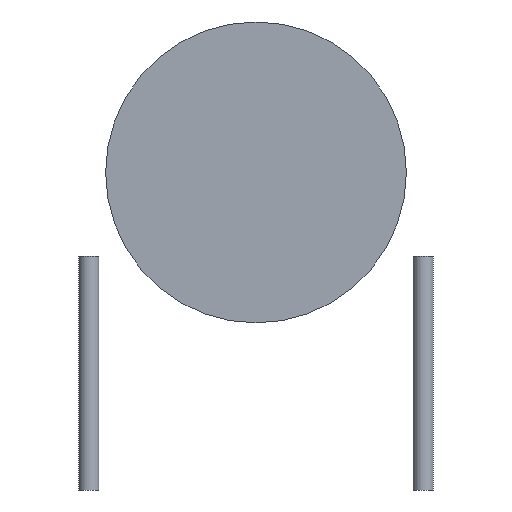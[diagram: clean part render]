
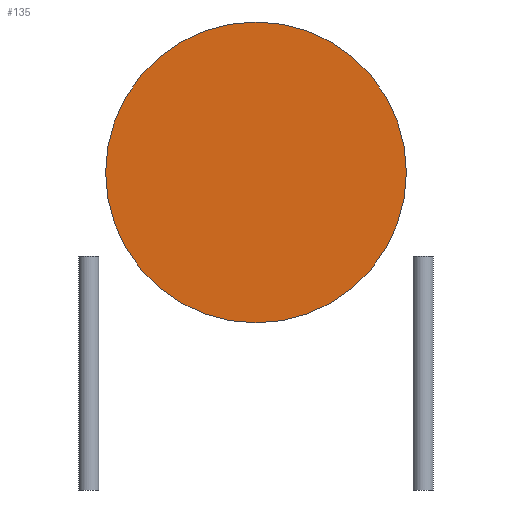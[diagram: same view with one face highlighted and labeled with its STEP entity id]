
A CAD part, front view. The second image highlights one B-rep face of the part: STEP entity #135.
In plain terms, the highlighted planar face has unit normal (0, -1, 0).
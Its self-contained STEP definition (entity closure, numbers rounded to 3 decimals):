
#57 = CYLINDRICAL_SURFACE('',#58,4.5);
#58 = AXIS2_PLACEMENT_3D('',#59,#60,#61);
#59 = CARTESIAN_POINT('',(5.,-2.,9.5));
#60 = DIRECTION('',(0.,1.,0.));
#61 = DIRECTION('',(0.,-0.,1.));
#82 = VERTEX_POINT('',#83);
#83 = CARTESIAN_POINT('',(5.,-2.,14.));
#104 = EDGE_CURVE('',#82,#82,#105,.T.);
#105 = SURFACE_CURVE('',#106,(#111,#118),.PCURVE_S1.);
#106 = CIRCLE('',#107,4.5);
#107 = AXIS2_PLACEMENT_3D('',#108,#109,#110);
#108 = CARTESIAN_POINT('',(5.,-2.,9.5));
#109 = DIRECTION('',(0.,1.,0.));
#110 = DIRECTION('',(0.,-0.,1.));
#111 = PCURVE('',#57,#112);
#112 = DEFINITIONAL_REPRESENTATION('',(#113),#117);
#113 = LINE('',#114,#115);
#114 = CARTESIAN_POINT('',(0.,0.));
#115 = VECTOR('',#116,1.);
#116 = DIRECTION('',(1.,0.));
#117 = ( GEOMETRIC_REPRESENTATION_CONTEXT(2) 
PARAMETRIC_REPRESENTATION_CONTEXT() REPRESENTATION_CONTEXT('2D SPACE',''
  ) );
#118 = PCURVE('',#119,#124);
#119 = PLANE('',#120);
#120 = AXIS2_PLACEMENT_3D('',#121,#122,#123);
#121 = CARTESIAN_POINT('',(5.,-2.,9.5));
#122 = DIRECTION('',(0.,1.,0.));
#123 = DIRECTION('',(0.,-0.,1.));
#124 = DEFINITIONAL_REPRESENTATION('',(#125),#129);
#125 = CIRCLE('',#126,4.5);
#126 = AXIS2_PLACEMENT_2D('',#127,#128);
#127 = CARTESIAN_POINT('',(0.,0.));
#128 = DIRECTION('',(1.,0.));
#129 = ( GEOMETRIC_REPRESENTATION_CONTEXT(2) 
PARAMETRIC_REPRESENTATION_CONTEXT() REPRESENTATION_CONTEXT('2D SPACE',''
  ) );
#135 = ADVANCED_FACE('',(#136),#119,.F.);
#136 = FACE_BOUND('',#137,.T.);
#137 = EDGE_LOOP('',(#138));
#138 = ORIENTED_EDGE('',*,*,#104,.F.);
